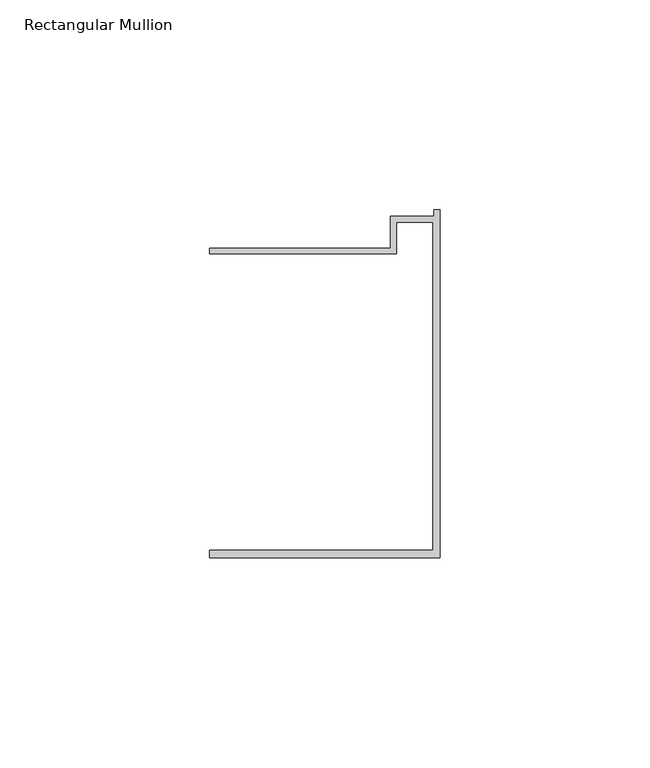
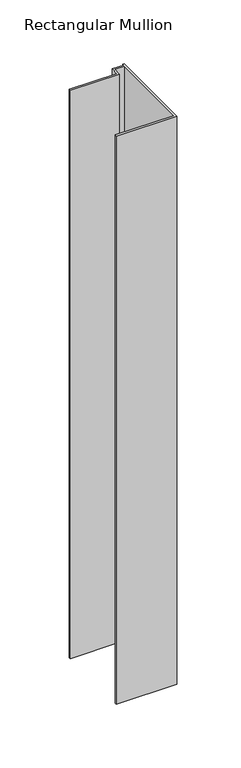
"""IFC4 building model written with IfcOpenShell, lengths in millimetres: member geometry, Rectangular Mullion : Danpal Top Mullion."""

from ifc_helpers import new_model, si_unit, frame, origin, place, context, project, spatial, polyline, outline, extrude, source, transform, mapped, element, save


def rectangular_mullion_9941ef16(model_context):
    return source(origin(), model_context, "Body", "SweptSolid", [
        extrude(outline(polyline([(-54.8546474, 80.8144448), (-54.8546474, 82.2144448), (-11.7999842, 82.2144448), (-11.7999842, 89.8206003), (-1.4, 89.8206003), (-1.4, 91.3144448), (0.0, 91.3144448), (0.0, 8.4568509), (-54.8546474, 8.4568509), (-54.8546474, 10.2068341), (-1.6, 10.2068341), (-1.6, 88.4144116), (-10.3999842, 88.4144116), (-10.3999842, 80.8144448), (-54.8546474, 80.8144448)])), frame((0.0, 0.0, -544.9508269), z_axis=(0.0, 0.0, 1.0), x_axis=(1.0, 0.0, 0.0)), (0.0, 0.0, 1.0), 544.9508269),
    ])


if __name__ == "__main__":
    model = new_model("IFC4")
    model_context = context("Model", 3, world=origin())
    ifc_project = project(units=[si_unit("LENGTHUNIT", "METRE", prefix="MILLI")], contexts=[model_context])
    site = spatial("IfcSite", under=ifc_project)
    building = spatial("IfcBuilding", under=site)
    placement = place(None, origin())
    rectangular_mullion_shape = rectangular_mullion_9941ef16(model_context)
    element("IfcMember", 1, ObjectType="Rectangular Mullion : Danpal Top Mullion", at=placement, inside=building, context=model_context, shape_type="MappedRepresentation", body=[
        mapped(rectangular_mullion_shape, transform((0.0, 0.0, 0.0), x_axis=(1.0, 0.0, 0.0), y_axis=(0.0, 1.0, 0.0), z_axis=(0.0, 0.0, 1.0))),
    ])
    save(model, "model.ifc")
